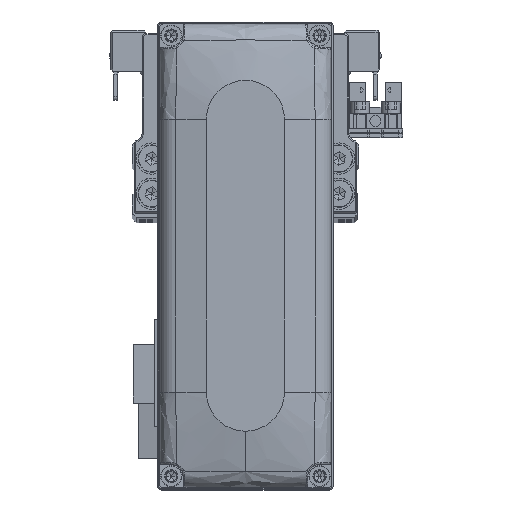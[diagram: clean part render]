
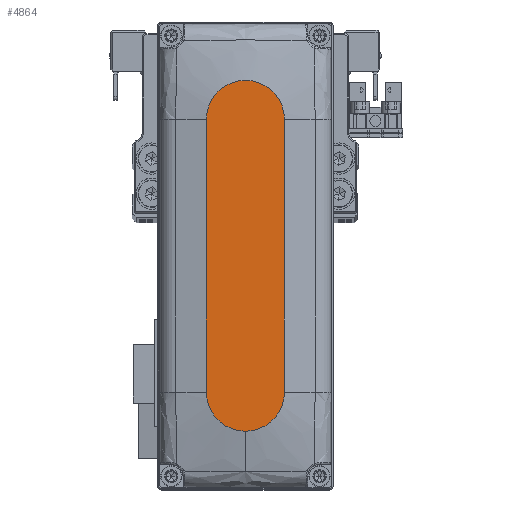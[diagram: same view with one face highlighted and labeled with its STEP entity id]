
A CAD part, top view. The second image highlights one B-rep face of the part: STEP entity #4864.
In plain terms, the highlighted planar face has unit normal (0, 0, 1).
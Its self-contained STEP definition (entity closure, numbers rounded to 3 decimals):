
#81 = ORIENTED_EDGE ( 'NONE', *, *, #37219, .T. ) ;
#458 = ORIENTED_EDGE ( 'NONE', *, *, #23596, .T. ) ;
#584 = CARTESIAN_POINT ( 'NONE',  ( 35., -10., 28. ) ) ;
#2001 = VERTEX_POINT ( 'NONE', #8455 ) ;
#4248 = AXIS2_PLACEMENT_3D ( 'NONE', #40252, #12329, #24753 ) ;
#4431 = DIRECTION ( 'NONE',  ( 1., 0., 0. ) ) ;
#4864 = ADVANCED_FACE ( 'NONE', ( #21792 ), #34230, .T. ) ;
#6316 = CARTESIAN_POINT ( 'NONE',  ( 0., 0., 28. ) ) ;
#8455 = CARTESIAN_POINT ( 'NONE',  ( 45., 0., 28. ) ) ;
#8631 = DIRECTION ( 'NONE',  ( -1., 0., 0. ) ) ;
#8662 = AXIS2_PLACEMENT_3D ( 'NONE', #26803, #39250, #11323 ) ;
#8897 = CARTESIAN_POINT ( 'NONE',  ( 35., 10., 28. ) ) ;
#10138 = LINE ( 'NONE', #22575, #33501 ) ;
#11323 = DIRECTION ( 'NONE',  ( 1., 0., 0. ) ) ;
#12329 = DIRECTION ( 'NONE',  ( 0., 0., 1. ) ) ;
#18543 = AXIS2_PLACEMENT_3D ( 'NONE', #19914, #32340, #4431 ) ;
#18755 = DIRECTION ( 'NONE',  ( 0., 0., 1. ) ) ;
#18987 = CARTESIAN_POINT ( 'NONE',  ( -35., 10., 28. ) ) ;
#19699 = EDGE_LOOP ( 'NONE', ( #81, #39462, #35093, #458, #27094 ) ) ;
#19914 = CARTESIAN_POINT ( 'NONE',  ( -35., 0., 28. ) ) ;
#20024 = VERTEX_POINT ( 'NONE', #25034 ) ;
#21781 = CIRCLE ( 'NONE', #4248, 10. ) ;
#21792 = FACE_OUTER_BOUND ( 'NONE', #19699, .T. ) ;
#22575 = CARTESIAN_POINT ( 'NONE',  ( -35., -10., 28. ) ) ;
#23596 = EDGE_CURVE ( 'NONE', #37046, #2001, #26245, .T. ) ;
#23752 = VERTEX_POINT ( 'NONE', #18987 ) ;
#24112 = LINE ( 'NONE', #36537, #37984 ) ;
#24753 = DIRECTION ( 'NONE',  ( 1., 0., 0. ) ) ;
#24838 = EDGE_CURVE ( 'NONE', #23752, #20024, #36113, .T. ) ;
#25034 = CARTESIAN_POINT ( 'NONE',  ( -35., -10., 28. ) ) ;
#26245 = CIRCLE ( 'NONE', #8662, 10. ) ;
#26400 = EDGE_CURVE ( 'NONE', #2001, #28596, #21781, .T. ) ;
#26803 = CARTESIAN_POINT ( 'NONE',  ( 35., 0., 28. ) ) ;
#27094 = ORIENTED_EDGE ( 'NONE', *, *, #26400, .T. ) ;
#28596 = VERTEX_POINT ( 'NONE', #8897 ) ;
#31169 = DIRECTION ( 'NONE',  ( 1., 0., 0. ) ) ;
#32340 = DIRECTION ( 'NONE',  ( 0., 0., 1. ) ) ;
#33501 = VECTOR ( 'NONE', #35002, 1000. ) ;
#34230 = PLANE ( 'NONE',  #35092 ) ;
#35002 = DIRECTION ( 'NONE',  ( 1., 0., 0. ) ) ;
#35092 = AXIS2_PLACEMENT_3D ( 'NONE', #6316, #18755, #31169 ) ;
#35093 = ORIENTED_EDGE ( 'NONE', *, *, #38400, .T. ) ;
#36113 = CIRCLE ( 'NONE', #18543, 10. ) ;
#36537 = CARTESIAN_POINT ( 'NONE',  ( -35., 10., 28. ) ) ;
#37046 = VERTEX_POINT ( 'NONE', #584 ) ;
#37219 = EDGE_CURVE ( 'NONE', #28596, #23752, #24112, .T. ) ;
#37984 = VECTOR ( 'NONE', #8631, 1000. ) ;
#38400 = EDGE_CURVE ( 'NONE', #20024, #37046, #10138, .T. ) ;
#39250 = DIRECTION ( 'NONE',  ( 0., 0., 1. ) ) ;
#39462 = ORIENTED_EDGE ( 'NONE', *, *, #24838, .T. ) ;
#40252 = CARTESIAN_POINT ( 'NONE',  ( 35., 0., 28. ) ) ;
